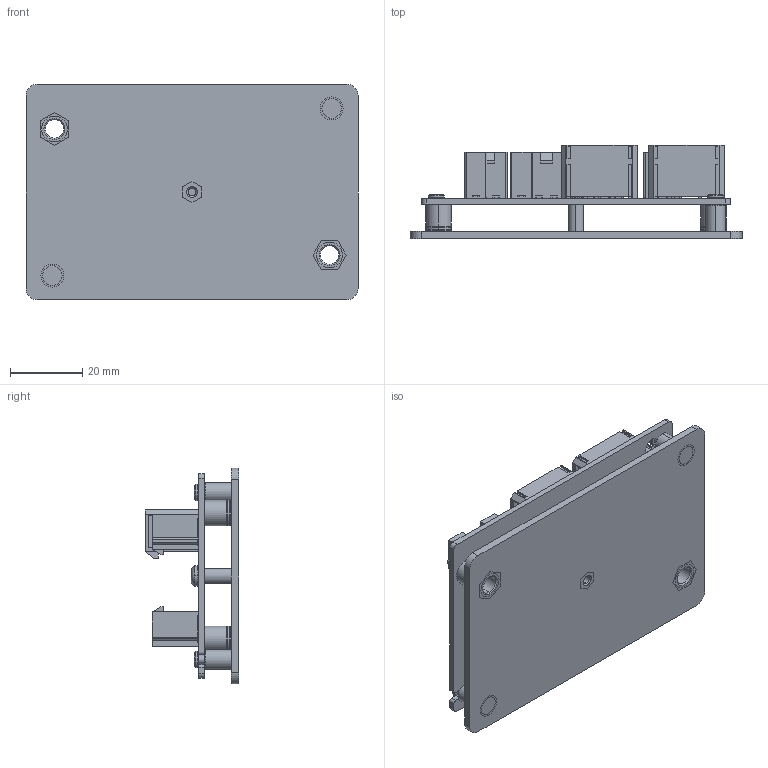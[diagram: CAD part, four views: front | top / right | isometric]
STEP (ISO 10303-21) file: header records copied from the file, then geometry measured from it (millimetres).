
FILE_DESCRIPTION (( 'STEP AP214' ), '1' );
FILE_NAME ('PWR4-HUB-S.STEP', '2023-08-18T15:56:20', ( '' ), ( '' ), 'SwSTEP 2.0', 'SolidWorks 2020', '' );
FILE_SCHEMA (( 'AUTOMOTIVE_DESIGN' ));
Length unit declared in the file: inch
Products named in the file (1): PWR4-HUB-S
Bounding box: 91.95 x 25.87 x 59.69 mm (x, y, z)
Volume: 26925 mm3; surface area: 35052.2 mm2
Topology: 8 solids, 8 shells, 1250 faces, 3375 edges, 2206 vertices
Faces by surface type: plane 1009, cylinder 184, cone 48, torus 6, bspline 3
Entity records: 56103 total; most frequent: CARTESIAN_POINT 8388, ORIENTED_EDGE 6726, DIRECTION 5987, EDGE_CURVE 3363, LINE 2879, VECTOR 2879, VERTEX_POINT 2206, AXIS2_PLACEMENT_3D 1554
